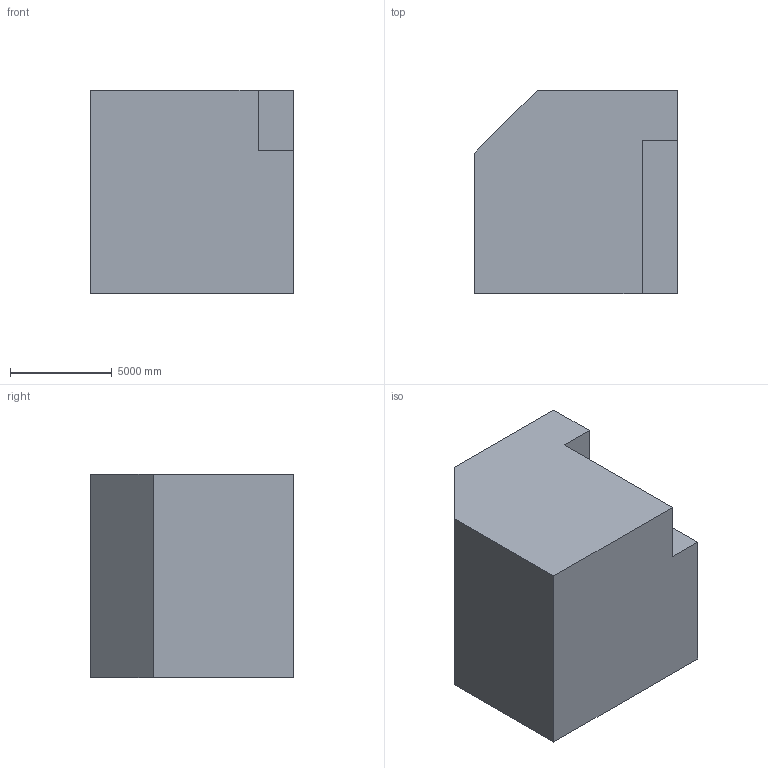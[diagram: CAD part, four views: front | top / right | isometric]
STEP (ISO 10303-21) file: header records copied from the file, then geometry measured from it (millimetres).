
FILE_DESCRIPTION (( 'STEP AP203' ), '1' );
FILE_NAME ('1239.STEP', '2022-08-18T13:20:24', ( 'user' ), ( '' ), 'SwSTEP 2.0', 'SolidWorks 2021', '' );
FILE_SCHEMA (( 'CONFIG_CONTROL_DESIGN' ));
Length unit declared in the file: centimetre
Products named in the file (1): 1239
Bounding box: 10000 x 10000 x 10000 mm (x, y, z)
Volume: 886150662502.3 mm3; surface area: 622380369.9 mm2
Topology: 1 solids, 1 shells, 13 faces, 30 edges, 20 vertices
Faces by surface type: plane 11, cylinder 2
Entity records: 445 total; most frequent: CARTESIAN_POINT 64, DIRECTION 62, ORIENTED_EDGE 60, EDGE_CURVE 30, VECTOR 26, LINE 26, VERTEX_POINT 20, AXIS2_PLACEMENT_3D 18
